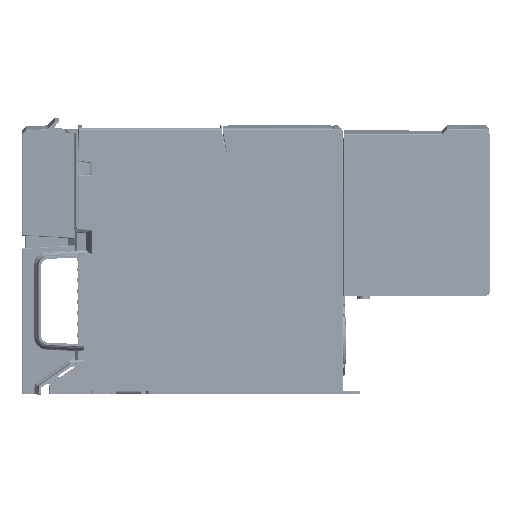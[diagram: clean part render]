
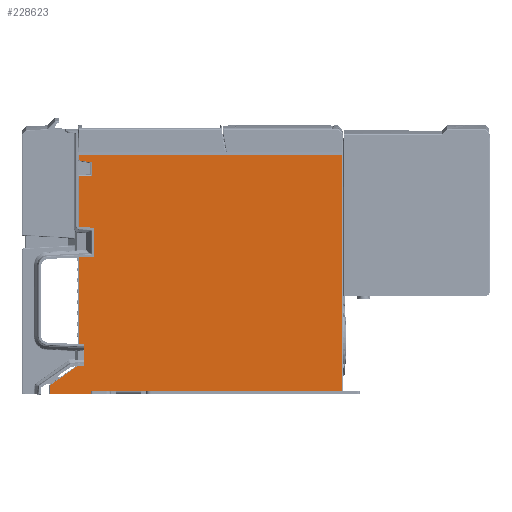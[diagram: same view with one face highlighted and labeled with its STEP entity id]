
A CAD part, left-side view. The second image highlights one B-rep face of the part: STEP entity #228623.
In plain terms, the highlighted planar face has unit normal (-1, 0, 0).
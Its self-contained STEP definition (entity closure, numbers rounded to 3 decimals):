
#2852=CARTESIAN_POINT('',(-37.5,0.394,-124.836));
#2858=DIRECTION('',(0.,-0.996,0.087));
#2859=VECTOR('',#2858,0.897);
#2860=CARTESIAN_POINT('',(-37.5,0.394,-124.836));
#2861=LINE('',#2860,#2859);
#2862=DIRECTION('',(0.,0.985,0.174));
#2863=VECTOR('',#2862,8.22);
#2864=CARTESIAN_POINT('',(-37.5,-8.595,
2.659));
#2865=LINE('',#2864,#2863);
#2866=DIRECTION('',(0.,-0.818,0.575));
#2867=VECTOR('',#2866,20.909);
#2868=CARTESIAN_POINT('',(-37.5,17.5,-136.86));
#2869=LINE('',#2868,#2867);
#2885=DIRECTION('',(0.,0.,-1.));
#2886=VECTOR('',#2885,119.063);
#2887=CARTESIAN_POINT('',(-37.5,-0.5,-5.695));
#2888=LINE('',#2887,#2886);
#2963=DIRECTION('',(0.,0.,-1.));
#2964=VECTOR('',#2963,3.314);
#2965=CARTESIAN_POINT('',(-37.5,-0.5,7.4));
#2966=LINE('',#2965,#2964);
#2980=DIRECTION('',(0.,1.,0.));
#2981=VECTOR('',#2980,165.);
#2982=CARTESIAN_POINT('',(-37.5,-165.5,7.4));
#2983=LINE('',#2982,#2981);
#5305=DIRECTION('',(0.,-1.,0.));
#5306=VECTOR('',#5305,25.448);
#5307=CARTESIAN_POINT('',(-37.5,17.5,-142.1));
#5308=LINE('',#5307,#5306);
#5321=DIRECTION('',(0.,0.,-1.));
#5322=VECTOR('',#5321,5.24);
#5323=CARTESIAN_POINT('',(-37.5,17.5,-136.86));
#5324=LINE('',#5323,#5322);
#5348=DIRECTION('',(0.,-0.035,0.999));
#5349=VECTOR('',#5348,1.501);
#5350=CARTESIAN_POINT('',(-37.5,-7.948,-142.1));
#5351=LINE('',#5350,#5349);
#5388=DIRECTION('',(0.,-1.,0.));
#5389=VECTOR('',#5388,157.5);
#5390=CARTESIAN_POINT('',(-37.5,-8.,-140.6));
#5391=LINE('',#5390,#5389);
#5562=DIRECTION('',(0.,0.,1.));
#5563=VECTOR('',#5562,148.);
#5564=CARTESIAN_POINT('',(-37.5,-165.5,-140.6));
#5565=LINE('',#5564,#5563);
#14160=DIRECTION('',(0.,0.,-1.));
#14161=VECTOR('',#14160,8.354);
#14162=CARTESIAN_POINT('',(-37.5,-8.595,
2.659));
#14163=LINE('',#14162,#14161);
#14164=DIRECTION('',(0.,1.,0.));
#14165=VECTOR('',#14164,8.095);
#14166=CARTESIAN_POINT('',(-37.5,-8.595,-5.695));
#14167=LINE('',#14166,#14165);
#182114=VERTEX_POINT('',#2852);
#182115=CARTESIAN_POINT('',(-37.5,-0.5,-124.758));
#182116=VERTEX_POINT('',#182115);
#182117=CARTESIAN_POINT('',(-37.5,-8.595,
2.659));
#182118=CARTESIAN_POINT('',(-37.5,-0.5,
4.086));
#182119=VERTEX_POINT('',#182117);
#182120=VERTEX_POINT('',#182118);
#182121=CARTESIAN_POINT('',(-37.5,-165.5,7.4));
#182122=CARTESIAN_POINT('',(-37.5,-0.5,7.4));
#182123=VERTEX_POINT('',#182121);
#182124=VERTEX_POINT('',#182122);
#182125=CARTESIAN_POINT('',(-37.5,-8.,-140.6));
#182126=CARTESIAN_POINT('',(-37.5,-165.5,-140.6));
#182127=VERTEX_POINT('',#182125);
#182128=VERTEX_POINT('',#182126);
#182129=CARTESIAN_POINT('',(-37.5,-7.948,-142.1));
#182130=VERTEX_POINT('',#182129);
#182131=CARTESIAN_POINT('',(-37.5,17.5,-136.86));
#182132=VERTEX_POINT('',#182131);
#182133=CARTESIAN_POINT('',(-37.5,-0.5,-5.695));
#182134=VERTEX_POINT('',#182133);
#182316=CARTESIAN_POINT('',(-37.5,17.5,-142.1));
#182317=VERTEX_POINT('',#182316);
#182789=CARTESIAN_POINT('',(-37.5,-8.595,-5.695));
#182790=VERTEX_POINT('',#182789);
#228591=CARTESIAN_POINT('',(-37.5,-74.,-67.35));
#228592=DIRECTION('',(1.,0.,0.));
#228593=DIRECTION('',(0.,0.,1.));
#228594=AXIS2_PLACEMENT_3D('',#228591,#228592,#228593);
#228595=PLANE('',#228594);
#228597=ORIENTED_EDGE('',*,*,#228596,.T.);
#228599=ORIENTED_EDGE('',*,*,#228598,.F.);
#228601=ORIENTED_EDGE('',*,*,#228600,.F.);
#228603=ORIENTED_EDGE('',*,*,#228602,.F.);
#228605=ORIENTED_EDGE('',*,*,#228604,.T.);
#228607=ORIENTED_EDGE('',*,*,#228606,.F.);
#228609=ORIENTED_EDGE('',*,*,#228608,.F.);
#228611=ORIENTED_EDGE('',*,*,#228610,.F.);
#228613=ORIENTED_EDGE('',*,*,#228612,.F.);
#228615=ORIENTED_EDGE('',*,*,#228614,.F.);
#228617=ORIENTED_EDGE('',*,*,#228616,.F.);
#228619=ORIENTED_EDGE('',*,*,#228618,.F.);
#228620=ORIENTED_EDGE('',*,*,#228583,.T.);
#228621=EDGE_LOOP('',(#228597,#228599,#228601,#228603,#228605,#228607,#228609,
#228611,#228613,#228615,#228617,#228619,#228620));
#228622=FACE_OUTER_BOUND('',#228621,.F.);
#228623=ADVANCED_FACE('',(#228622),#228595,.F.);
#228583=EDGE_CURVE('',#182132,#182114,#2869,.T.);
#228596=EDGE_CURVE('',#182114,#182116,#2861,.T.);
#228598=EDGE_CURVE('',#182134,#182116,#2888,.T.);
#228600=EDGE_CURVE('',#182790,#182134,#14167,.T.);
#228602=EDGE_CURVE('',#182119,#182790,#14163,.T.);
#228604=EDGE_CURVE('',#182119,#182120,#2865,.T.);
#228606=EDGE_CURVE('',#182124,#182120,#2966,.T.);
#228608=EDGE_CURVE('',#182123,#182124,#2983,.T.);
#228610=EDGE_CURVE('',#182128,#182123,#5565,.T.);
#228612=EDGE_CURVE('',#182127,#182128,#5391,.T.);
#228614=EDGE_CURVE('',#182130,#182127,#5351,.T.);
#228616=EDGE_CURVE('',#182317,#182130,#5308,.T.);
#228618=EDGE_CURVE('',#182132,#182317,#5324,.T.);
